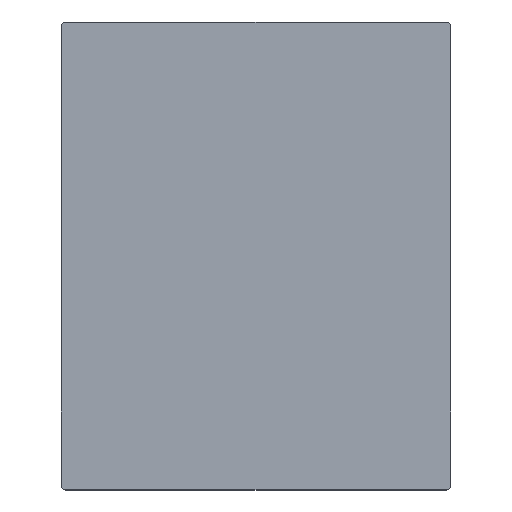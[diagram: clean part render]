
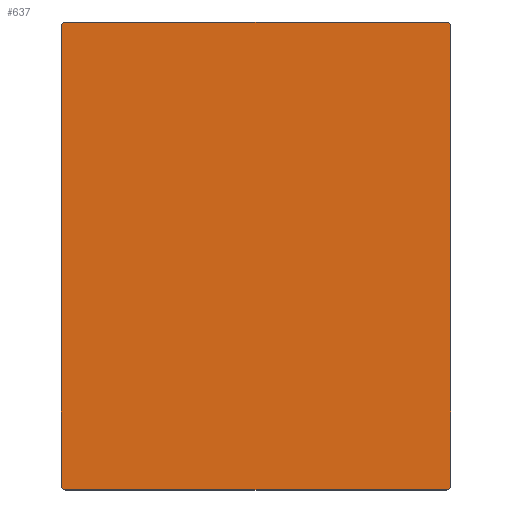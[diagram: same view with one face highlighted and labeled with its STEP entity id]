
A CAD part, top view. The second image highlights one B-rep face of the part: STEP entity #637.
In plain terms, the highlighted planar face has unit normal (0, 0, 1).
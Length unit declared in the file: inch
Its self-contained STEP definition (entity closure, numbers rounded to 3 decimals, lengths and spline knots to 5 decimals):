
#26=PLANE('',#695);
#51=FACE_OUTER_BOUND('',#93,.T.);
#93=EDGE_LOOP('',(#445,#446,#447,#448,#449,#450,#451,#452));
#145=LINE('',#993,#199);
#148=LINE('',#999,#202);
#149=LINE('',#1003,#203);
#150=LINE('',#1007,#204);
#199=VECTOR('',#781,0.3937);
#202=VECTOR('',#786,0.3937);
#203=VECTOR('',#789,0.3937);
#204=VECTOR('',#792,0.3937);
#251=CIRCLE('',#692,0.125);
#253=CIRCLE('',#696,0.125);
#254=CIRCLE('',#697,0.125);
#255=CIRCLE('',#698,0.125);
#287=VERTEX_POINT('',#983);
#288=VERTEX_POINT('',#984);
#291=VERTEX_POINT('',#992);
#293=VERTEX_POINT('',#998);
#294=VERTEX_POINT('',#1000);
#295=VERTEX_POINT('',#1002);
#296=VERTEX_POINT('',#1004);
#297=VERTEX_POINT('',#1006);
#347=EDGE_CURVE('',#287,#288,#251,.T.);
#351=EDGE_CURVE('',#291,#288,#145,.F.);
#354=EDGE_CURVE('',#287,#293,#148,.F.);
#355=EDGE_CURVE('',#294,#293,#253,.T.);
#356=EDGE_CURVE('',#294,#295,#149,.F.);
#357=EDGE_CURVE('',#296,#295,#254,.T.);
#358=EDGE_CURVE('',#296,#297,#150,.F.);
#359=EDGE_CURVE('',#291,#297,#255,.T.);
#445=ORIENTED_EDGE('',*,*,#347,.F.);
#446=ORIENTED_EDGE('',*,*,#354,.T.);
#447=ORIENTED_EDGE('',*,*,#355,.F.);
#448=ORIENTED_EDGE('',*,*,#356,.T.);
#449=ORIENTED_EDGE('',*,*,#357,.F.);
#450=ORIENTED_EDGE('',*,*,#358,.T.);
#451=ORIENTED_EDGE('',*,*,#359,.F.);
#452=ORIENTED_EDGE('',*,*,#351,.T.);
#637=ADVANCED_FACE('',(#51),#26,.F.);
#692=AXIS2_PLACEMENT_3D('',#985,#773,#774);
#695=AXIS2_PLACEMENT_3D('',#997,#784,#785);
#696=AXIS2_PLACEMENT_3D('',#1001,#787,#788);
#697=AXIS2_PLACEMENT_3D('',#1005,#790,#791);
#698=AXIS2_PLACEMENT_3D('',#1008,#793,#794);
#773=DIRECTION('center_axis',(0.,0.,-1.));
#774=DIRECTION('ref_axis',(-0.707,0.707,0.));
#781=DIRECTION('',(1.,0.,0.));
#784=DIRECTION('center_axis',(0.,0.,-1.));
#785=DIRECTION('ref_axis',(0.,1.,0.));
#786=DIRECTION('',(0.,1.,0.));
#787=DIRECTION('center_axis',(0.,0.,-1.));
#788=DIRECTION('ref_axis',(-0.707,-0.707,0.));
#789=DIRECTION('',(-1.,0.,0.));
#790=DIRECTION('center_axis',(0.,0.,-1.));
#791=DIRECTION('ref_axis',(0.707,-0.707,0.));
#792=DIRECTION('',(0.,-1.,0.));
#793=DIRECTION('center_axis',(0.,0.,-1.));
#794=DIRECTION('ref_axis',(0.707,0.707,0.));
#983=CARTESIAN_POINT('',(-1.,11.875,1.5));
#984=CARTESIAN_POINT('',(-0.875,12.,1.5));
#985=CARTESIAN_POINT('Origin',(-0.875,11.875,1.5));
#992=CARTESIAN_POINT('',(8.875,12.,1.5));
#993=CARTESIAN_POINT('',(0.,12.,1.5));
#997=CARTESIAN_POINT('Origin',(0.,12.,1.5));
#998=CARTESIAN_POINT('',(-1.,0.125,1.5));
#999=CARTESIAN_POINT('',(-1.,6.,1.5));
#1000=CARTESIAN_POINT('',(-0.875,0.,1.5));
#1001=CARTESIAN_POINT('Origin',(-0.875,0.125,1.5));
#1002=CARTESIAN_POINT('',(8.875,0.,1.5));
#1003=CARTESIAN_POINT('',(0.,0.,1.5));
#1004=CARTESIAN_POINT('',(9.,0.125,1.5));
#1005=CARTESIAN_POINT('Origin',(8.875,0.125,1.5));
#1006=CARTESIAN_POINT('',(9.,11.875,1.5));
#1007=CARTESIAN_POINT('',(9.,6.,1.5));
#1008=CARTESIAN_POINT('Origin',(8.875,11.875,1.5));
